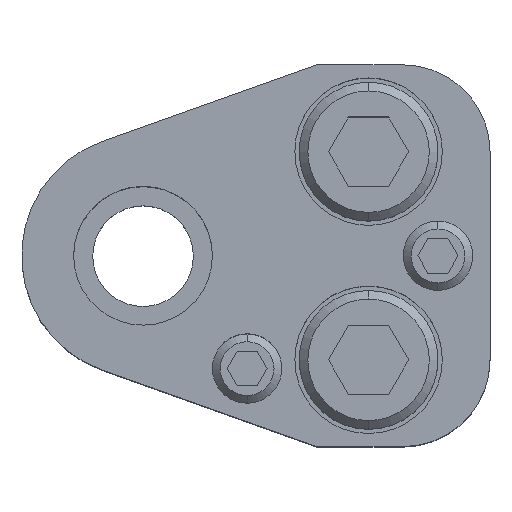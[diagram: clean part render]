
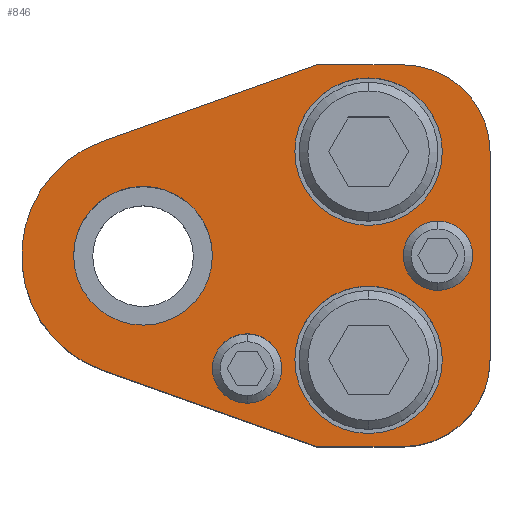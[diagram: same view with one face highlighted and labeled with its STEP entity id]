
A CAD part, top view. The second image highlights one B-rep face of the part: STEP entity #846.
In plain terms, the highlighted planar face has unit normal (0, 0, 1).
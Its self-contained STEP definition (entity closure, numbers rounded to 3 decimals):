
#461=LINE('',#4196,#659);
#466=LINE('',#4211,#664);
#470=LINE('',#4223,#668);
#475=LINE('',#4232,#673);
#480=LINE('',#4246,#678);
#659=VECTOR('',#3371,1.);
#664=VECTOR('',#3384,1.);
#668=VECTOR('',#3396,1.);
#673=VECTOR('',#3403,1.);
#678=VECTOR('',#3416,1.);
#846=ADVANCED_FACE('',(#979,#980,#981,#982,#983,#984),#943,.T.);
#943=PLANE('',#2837);
#979=FACE_BOUND('',#1131,.T.);
#980=FACE_BOUND('',#1132,.T.);
#981=FACE_BOUND('',#1133,.T.);
#982=FACE_BOUND('',#1134,.T.);
#983=FACE_BOUND('',#1135,.T.);
#984=FACE_BOUND('',#1136,.T.);
#1131=EDGE_LOOP('',(#1676,#1677,#1678,#1679,#1680,#1681,#1682,#1683));
#1132=EDGE_LOOP('',(#1684,#1685));
#1133=EDGE_LOOP('',(#1686,#1687));
#1134=EDGE_LOOP('',(#1688,#1689));
#1135=EDGE_LOOP('',(#1690,#1691));
#1136=EDGE_LOOP('',(#1692,#1693));
#1676=ORIENTED_EDGE('',*,*,#2340,.T.);
#1677=ORIENTED_EDGE('',*,*,#2322,.T.);
#1678=ORIENTED_EDGE('',*,*,#2326,.T.);
#1679=ORIENTED_EDGE('',*,*,#2329,.T.);
#1680=ORIENTED_EDGE('',*,*,#2332,.T.);
#1681=ORIENTED_EDGE('',*,*,#2335,.T.);
#1682=ORIENTED_EDGE('',*,*,#2347,.T.);
#1683=ORIENTED_EDGE('',*,*,#2343,.T.);
#1684=ORIENTED_EDGE('',*,*,#2382,.F.);
#1685=ORIENTED_EDGE('',*,*,#2383,.F.);
#1686=ORIENTED_EDGE('',*,*,#2384,.F.);
#1687=ORIENTED_EDGE('',*,*,#2385,.F.);
#1688=ORIENTED_EDGE('',*,*,#2372,.F.);
#1689=ORIENTED_EDGE('',*,*,#2368,.F.);
#1690=ORIENTED_EDGE('',*,*,#2366,.F.);
#1691=ORIENTED_EDGE('',*,*,#2362,.F.);
#1692=ORIENTED_EDGE('',*,*,#2386,.T.);
#1693=ORIENTED_EDGE('',*,*,#2387,.T.);
#2023=VERTEX_POINT('',#4195);
#2024=VERTEX_POINT('',#4197);
#2027=VERTEX_POINT('',#4204);
#2029=VERTEX_POINT('',#4210);
#2031=VERTEX_POINT('',#4216);
#2033=VERTEX_POINT('',#4222);
#2037=VERTEX_POINT('',#4233);
#2039=VERTEX_POINT('',#4239);
#2053=VERTEX_POINT('',#4281);
#2054=VERTEX_POINT('',#4282);
#2057=VERTEX_POINT('',#4293);
#2058=VERTEX_POINT('',#4294);
#2065=VERTEX_POINT('',#4321);
#2066=VERTEX_POINT('',#4322);
#2067=VERTEX_POINT('',#4325);
#2068=VERTEX_POINT('',#4326);
#2069=VERTEX_POINT('',#4329);
#2070=VERTEX_POINT('',#4330);
#2322=EDGE_CURVE('',#2024,#2023,#461,.T.);
#2326=EDGE_CURVE('',#2023,#2027,#2547,.T.);
#2329=EDGE_CURVE('',#2027,#2029,#466,.T.);
#2332=EDGE_CURVE('',#2029,#2031,#2549,.T.);
#2335=EDGE_CURVE('',#2031,#2033,#470,.T.);
#2340=EDGE_CURVE('',#2037,#2024,#475,.T.);
#2343=EDGE_CURVE('',#2039,#2037,#2552,.T.);
#2347=EDGE_CURVE('',#2033,#2039,#480,.T.);
#2362=EDGE_CURVE('',#2053,#2054,#2561,.T.);
#2366=EDGE_CURVE('',#2054,#2053,#2563,.T.);
#2368=EDGE_CURVE('',#2057,#2058,#2565,.T.);
#2372=EDGE_CURVE('',#2058,#2057,#2567,.T.);
#2382=EDGE_CURVE('',#2065,#2066,#2573,.T.);
#2383=EDGE_CURVE('',#2066,#2065,#2574,.T.);
#2384=EDGE_CURVE('',#2067,#2068,#2575,.T.);
#2385=EDGE_CURVE('',#2068,#2067,#2576,.T.);
#2386=EDGE_CURVE('',#2069,#2070,#2577,.T.);
#2387=EDGE_CURVE('',#2070,#2069,#2578,.T.);
#2547=CIRCLE('',#2788,10.);
#2549=CIRCLE('',#2792,10.);
#2552=CIRCLE('',#2798,14.);
#2561=CIRCLE('',#2811,4.);
#2563=CIRCLE('',#2814,4.);
#2565=CIRCLE('',#2817,4.);
#2567=CIRCLE('',#2820,4.);
#2573=CIRCLE('',#2831,8.5);
#2574=CIRCLE('',#2832,8.5);
#2575=CIRCLE('',#2833,8.5);
#2576=CIRCLE('',#2834,8.5);
#2577=CIRCLE('',#2835,8.);
#2578=CIRCLE('',#2836,8.);
#2788=AXIS2_PLACEMENT_3D('',#4205,#3377,#3378);
#2792=AXIS2_PLACEMENT_3D('',#4217,#3389,#3390);
#2798=AXIS2_PLACEMENT_3D('',#4238,#3409,#3410);
#2811=AXIS2_PLACEMENT_3D('',#4280,#3444,#3445);
#2814=AXIS2_PLACEMENT_3D('',#4289,#3452,#3453);
#2817=AXIS2_PLACEMENT_3D('',#4292,#3458,#3459);
#2820=AXIS2_PLACEMENT_3D('',#4301,#3466,#3467);
#2831=AXIS2_PLACEMENT_3D('',#4320,#3492,#3493);
#2832=AXIS2_PLACEMENT_3D('',#4323,#3494,#3495);
#2833=AXIS2_PLACEMENT_3D('',#4324,#3496,#3497);
#2834=AXIS2_PLACEMENT_3D('',#4327,#3498,#3499);
#2835=AXIS2_PLACEMENT_3D('',#4328,#3500,#3501);
#2836=AXIS2_PLACEMENT_3D('',#4331,#3502,#3503);
#2837=AXIS2_PLACEMENT_3D('',#4332,#3504,#3505);
#3371=DIRECTION('',(1.,0.,0.));
#3377=DIRECTION('',(0.,0.,1.));
#3378=DIRECTION('',(-0.707,0.707,0.));
#3384=DIRECTION('',(0.,1.,0.));
#3389=DIRECTION('',(0.,0.,1.));
#3390=DIRECTION('',(-0.707,-0.707,0.));
#3396=DIRECTION('',(-1.,0.,0.));
#3403=DIRECTION('',(0.942,-0.336,0.));
#3409=DIRECTION('',(0.,0.,1.));
#3410=DIRECTION('',(1.,0.,0.));
#3416=DIRECTION('',(-0.942,-0.336,0.));
#3444=DIRECTION('',(0.,0.,1.));
#3445=DIRECTION('',(-1.,0.,0.));
#3452=DIRECTION('',(0.,0.,1.));
#3453=DIRECTION('',(1.,0.,0.));
#3458=DIRECTION('',(0.,0.,1.));
#3459=DIRECTION('',(-1.,0.,0.));
#3466=DIRECTION('',(0.,0.,1.));
#3467=DIRECTION('',(1.,0.,0.));
#3492=DIRECTION('',(0.,0.,1.));
#3493=DIRECTION('',(1.,0.,0.));
#3494=DIRECTION('',(0.,0.,1.));
#3495=DIRECTION('',(-1.,0.,0.));
#3496=DIRECTION('',(0.,0.,1.));
#3497=DIRECTION('',(1.,0.,0.));
#3498=DIRECTION('',(0.,0.,1.));
#3499=DIRECTION('',(-1.,0.,0.));
#3500=DIRECTION('',(0.,0.,-1.));
#3501=DIRECTION('',(-1.,0.,0.));
#3502=DIRECTION('',(0.,0.,-1.));
#3503=DIRECTION('',(1.,0.,0.));
#3504=DIRECTION('',(0.,0.,1.));
#3505=DIRECTION('',(0.942,-0.336,0.));
#4195=CARTESIAN_POINT('',(30.,-22.,35.));
#4196=CARTESIAN_POINT('',(20.,-22.,35.));
#4197=CARTESIAN_POINT('',(20.,-22.,35.));
#4204=CARTESIAN_POINT('',(40.,-12.,35.));
#4205=CARTESIAN_POINT('',(30.,-12.,35.));
#4210=CARTESIAN_POINT('',(40.,12.,35.));
#4211=CARTESIAN_POINT('',(40.,12.,35.));
#4216=CARTESIAN_POINT('',(30.,22.,35.));
#4217=CARTESIAN_POINT('',(30.,12.,35.));
#4222=CARTESIAN_POINT('',(20.,22.,35.));
#4223=CARTESIAN_POINT('',(20.,22.,35.));
#4232=CARTESIAN_POINT('',(20.,-22.,35.));
#4233=CARTESIAN_POINT('',(-4.704,-13.186,35.));
#4238=CARTESIAN_POINT('',(0.,0.,35.));
#4239=CARTESIAN_POINT('',(-4.704,13.186,35.));
#4246=CARTESIAN_POINT('',(20.,22.,35.));
#4280=CARTESIAN_POINT('',(12.,-13.,35.));
#4281=CARTESIAN_POINT('',(12.,-17.,35.));
#4282=CARTESIAN_POINT('',(12.,-9.,35.));
#4289=CARTESIAN_POINT('',(12.,-13.,35.));
#4292=CARTESIAN_POINT('',(34.,0.,35.));
#4293=CARTESIAN_POINT('',(34.,-4.,35.));
#4294=CARTESIAN_POINT('',(34.,4.,35.));
#4301=CARTESIAN_POINT('',(34.,0.,35.));
#4320=CARTESIAN_POINT('',(26.,12.,35.));
#4321=CARTESIAN_POINT('',(26.,20.5,35.));
#4322=CARTESIAN_POINT('',(26.,3.5,35.));
#4323=CARTESIAN_POINT('',(26.,12.,35.));
#4324=CARTESIAN_POINT('',(26.,-12.,35.));
#4325=CARTESIAN_POINT('',(26.,-3.5,35.));
#4326=CARTESIAN_POINT('',(26.,-20.5,35.));
#4327=CARTESIAN_POINT('',(26.,-12.,35.));
#4328=CARTESIAN_POINT('',(0.,0.,35.));
#4329=CARTESIAN_POINT('',(0.,8.,35.));
#4330=CARTESIAN_POINT('',(0.,-8.,35.));
#4331=CARTESIAN_POINT('',(0.,0.,35.));
#4332=CARTESIAN_POINT('',(-4.704,-13.186,35.));
